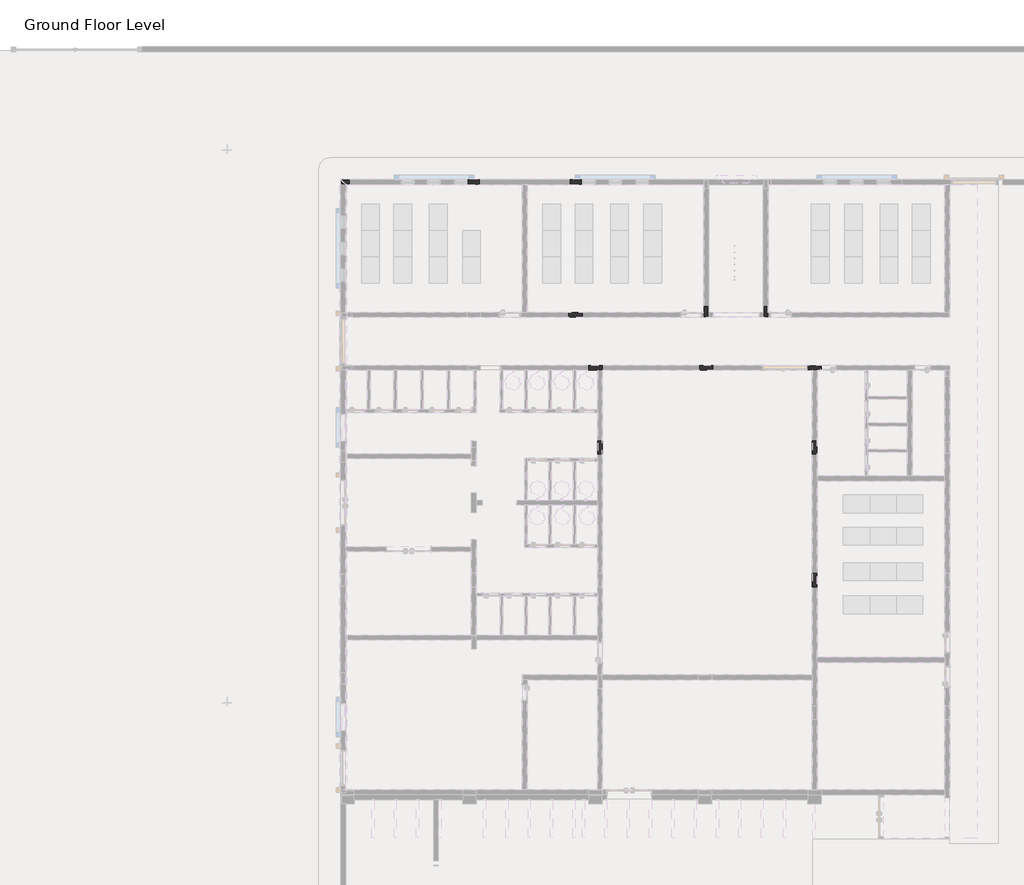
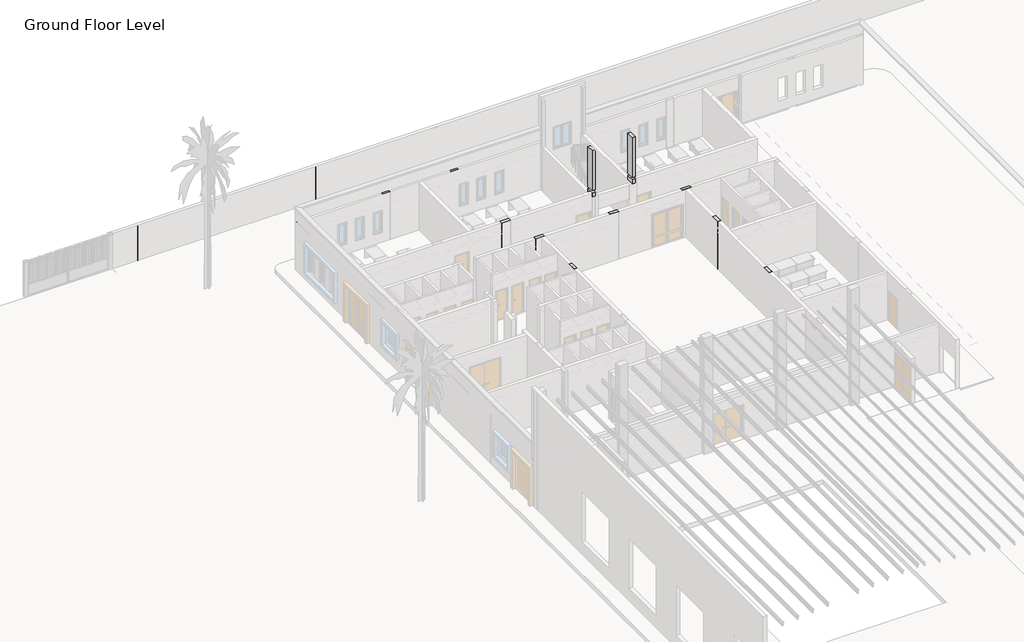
# One storey, part 19 of 23: 31 beams, 16 columns, 12 slabs.
"""IFC4 building model written with IfcOpenShell, lengths in millimetres."""

import ifcopenshell
import ifcopenshell.guid

model = None  # the IFC model being written
_history = None  # IfcOwnerHistory: only IFC2X3 demands one
_inside = {}  # id of a spatial element -> (the spatial element, [elements in it])
_under = {}  # id of a project, library or spatial element -> (it, [spatial elements below it])
_declared = {}  # id of a project -> (the project, [libraries it declares])
_typed = {}  # id of a type object -> (the type object, [elements of that type])
_made_of = {}  # id of a material, layer set ... -> (it, [elements and type objects made of it])


def new_model(schema):
    """Start an empty IFC model of exactly this schema.

    Asked for "IFC4X3", IfcOpenShell would pick the latest addendum, in which some entities
    have other attributes; the version numbers below select the first issue.
    IFC2X3 requires an IfcOwnerHistory on every rooted entity: one is made here for all.
    """
    global model, _history
    if schema == "IFC4X3":
        model = ifcopenshell.file(schema_version=(4, 3, 0, 0))
    else:
        model = ifcopenshell.file(schema=schema)
    _inside.clear()
    _under.clear()
    _declared.clear()
    _typed.clear()
    _made_of.clear()
    _history = None
    if model.schema == "IFC2X3":
        org = make("IfcOrganization", Name="unknown")
        user = make(
            "IfcPersonAndOrganization",
            ThePerson=make("IfcPerson", FamilyName="unknown"),
            TheOrganization=org,
        )
        app = make(
            "IfcApplication",
            ApplicationDeveloper=org,
            Version="unknown",
            ApplicationFullName="unknown",
            ApplicationIdentifier="unknown",
        )
        _history = make(
            "IfcOwnerHistory",
            OwningUser=user,
            OwningApplication=app,
            ChangeAction="ADDED",
            CreationDate=0,
        )
    return model


def make(cls, **values):
    """One entity of the class cls with the attributes given. An attribute that is None is left unset."""
    return model.create_entity(
        cls, **{name: value for name, value in values.items() if value is not None}
    )


def rooted(cls, **values):
    """An entity with a GlobalId (a new one), such as an element, a storey or a relation."""
    return make(cls, GlobalId=ifcopenshell.guid.new(), OwnerHistory=_history, **values)


def si_unit(unit_type, name, prefix=None):
    """IfcSIUnit, for example si_unit("LENGTHUNIT", "METRE", prefix="MILLI")."""
    return make("IfcSIUnit", UnitType=unit_type, Prefix=prefix, Name=name)


def assignment(units):
    """IfcUnitAssignment: the units of a project."""
    return None if units is None else make("IfcUnitAssignment", Units=units)


def point(xyz):
    """IfcCartesianPoint."""
    return None if xyz is None else make("IfcCartesianPoint", Coordinates=xyz)


def direction(xyz):
    """IfcDirection."""
    return None if xyz is None else make("IfcDirection", DirectionRatios=xyz)


def frame(location, z_axis=None, x_axis=None):
    """IfcAxis2Placement3D, a coordinate frame: its origin and axes. An axis left out is left unset."""
    return make(
        "IfcAxis2Placement3D",
        Location=point(location),
        Axis=direction(z_axis),
        RefDirection=direction(x_axis),
    )


def origin():
    """The frame at (0, 0, 0) with its axes left unset."""
    return frame((0.0, 0.0, 0.0))


def place(relative_to, where):
    """IfcLocalPlacement: puts the frame where relative to a parent placement (None: the world)."""
    return make(
        "IfcLocalPlacement", PlacementRelTo=relative_to, RelativePlacement=where
    )


def context(
    kind, dimensions, precision=None, world=None, true_north=None, identifier=None
):
    """IfcGeometricRepresentationContext, for example the 3D "Model" context."""
    return make(
        "IfcGeometricRepresentationContext",
        ContextIdentifier=identifier,
        ContextType=kind,
        CoordinateSpaceDimension=dimensions,
        Precision=precision,
        WorldCoordinateSystem=world,
        TrueNorth=true_north,
    )


def project(units=None, contexts=None):
    """IfcProject with its units and contexts."""
    return rooted(
        "IfcProject",
        Name="project",
        RepresentationContexts=contexts,
        UnitsInContext=assignment(units),
    )


def spatial(cls, under=None, at=None, **own):
    """A site, building, storey or space (cls), placed at a placement, below another one or the project."""
    s = rooted(cls, ObjectPlacement=at, **own)
    if under is not None:
        _under.setdefault(under.id(), (under, []))[1].append(s)
    return s


def polyline(points):
    """IfcPolyline through the points."""
    return make("IfcPolyline", Points=[point(p) for p in points])


def outline(outer, holes=None, kind="AREA"):
    """IfcArbitraryClosedProfileDef: a profile drawn as a closed curve; with holes, ...WithVoids."""
    if holes is None:
        return make("IfcArbitraryClosedProfileDef", ProfileType=kind, OuterCurve=outer)
    return make(
        "IfcArbitraryProfileDefWithVoids",
        ProfileType=kind,
        OuterCurve=outer,
        InnerCurves=holes,
    )


def extrude(swept, where, along, depth):
    """IfcExtrudedAreaSolid: the profile swept, set in the frame where, extruded along a direction by depth."""
    return make(
        "IfcExtrudedAreaSolid",
        SweptArea=swept,
        Position=where,
        ExtrudedDirection=direction(along),
        Depth=depth,
    )


def faces_of(points, faces, orient=None, outer=None):
    """IfcFace entities. A face is a list of loops; a loop is a list of indices into points, from 0.

    orient and outer hold one flag for each loop. By default every Orientation is true, the
    first loop of a face is its IfcFaceOuterBound and the others are IfcFaceBound.
    """
    made = []
    for i, loops in enumerate(faces):
        bounds = []
        for j, loop in enumerate(loops):
            is_outer = j == 0 if outer is None else outer[i][j]
            bounds.append(
                make(
                    "IfcFaceOuterBound" if is_outer else "IfcFaceBound",
                    Bound=make("IfcPolyLoop", Polygon=[points[k] for k in loop]),
                    Orientation=True if orient is None else orient[i][j],
                )
            )
        made.append(make("IfcFace", Bounds=bounds))
    return made


def faceted_brep(points, faces, orient=None, outer=None, voids=None):
    """IfcFacetedBrep: a solid bounded by flat faces; with voids (closed shells), ...WithVoids."""
    shared = [point(p) for p in points]
    hull = make("IfcClosedShell", CfsFaces=faces_of(shared, faces, orient, outer))
    if voids is None:
        return make("IfcFacetedBrep", Outer=hull)
    return make(
        "IfcFacetedBrepWithVoids",
        Outer=hull,
        Voids=[
            make(cls, CfsFaces=faces_of(shared, fs, o, b)) for cls, fs, o, b in voids
        ],
    )


def shape(context_of_items, identifier, shape_type, items):
    """IfcShapeRepresentation: the items that make up one representation, for example the "Body"."""
    return make(
        "IfcShapeRepresentation",
        ContextOfItems=context_of_items,
        RepresentationIdentifier=identifier,
        RepresentationType=shape_type,
        Items=items,
    )


def made_of(thing, what):
    """Note that an element or type object is made of a material, layer set ...; save() writes the relation."""
    if what is not None:
        _made_of.setdefault(what.id(), (what, []))[1].append(thing)
    return thing


def element(
    cls,
    number,
    at=None,
    inside=None,
    cuts=None,
    type_object=None,
    material=None,
    context=None,
    identifier="Body",
    shape_type=None,
    held_by="IfcProductDefinitionShape",
    body=None,
    shapes=None,
    **own,
):
    """One element of the class cls, such as IfcWall. Its Tag is "e" and its number.

    at: its placement. inside: the storey or other place that contains it. cuts: it is an
    opening in that element (IfcRelVoidsElement). A single representation is given by context,
    identifier, shape_type and body (its items); several are given by shapes. held_by: the class
    of the entity that holds the representations. save() writes the other relations.
    """
    e = rooted(cls, Tag="e%d" % number, ObjectPlacement=at, **own)
    if body is not None:
        shapes = [shape(context, identifier, shape_type, body)]
    if shapes is not None:
        e.Representation = make(held_by, Representations=shapes)
    if inside is not None:
        _inside.setdefault(inside.id(), (inside, []))[1].append(e)
    if cuts is not None:
        rooted(
            "IfcRelVoidsElement", RelatingBuildingElement=cuts, RelatedOpeningElement=e
        )
    if type_object is not None:
        _typed.setdefault(type_object.id(), (type_object, []))[1].append(e)
    return made_of(e, material)


def aggregate(whole, parts):
    """IfcRelAggregates: a whole, such as a stair, and the parts it consists of."""
    return rooted("IfcRelAggregates", RelatingObject=whole, RelatedObjects=parts)


def save(model, path):
    """Write the relations noted so far, then the file.

    IfcRelAggregates (storeys below a building ...), IfcRelContainedInSpatialStructure (elements
    in a storey), IfcRelDefinesByType, IfcRelAssociatesMaterial and IfcRelDeclares: one each for
    every whole, place, type object, material and project.
    """
    for whole, parts in _under.values():
        aggregate(whole, parts)
    for where, things in _inside.values():
        rooted(
            "IfcRelContainedInSpatialStructure",
            RelatedElements=things,
            RelatingStructure=where,
        )
    for kind, things in _typed.values():
        rooted("IfcRelDefinesByType", RelatedObjects=things, RelatingType=kind)
    for what, things in _made_of.values():
        rooted("IfcRelAssociatesMaterial", RelatedObjects=things, RelatingMaterial=what)
    for by, libraries in _declared.values():
        rooted("IfcRelDeclares", RelatingContext=by, RelatedDefinitions=libraries)
    model.write(path)


model = new_model("IFC4")

# Units and contexts
model_context = context("Model", 3, world=origin())
ifc_project = project(units=[si_unit("LENGTHUNIT", "METRE", prefix="MILLI")], contexts=[model_context])

# Site, building, storey
site = spatial("IfcSite", under=ifc_project)
building = spatial("IfcBuilding", under=site)
storey = spatial("IfcBuildingStorey", under=building, Name="Ground Floor Level", Elevation=900.0)

# Beams
placement = place(None, origin())
element("IfcBeam", 1, ObjectType="Concrete - Rectangular Beam : GB1", at=placement, inside=storey, context=model_context, shape_type="SweptSolid", body=[
    extrude(outline(polyline([(-14847.2327605, 13045.2153534), (-14647.2327605, 13045.2153534), (-14647.2327605, 11345.2153534), (-14847.2327605, 11345.2153534), (-14847.2327605, 13045.2153534)])), frame((0.0, 0.0, 500.0), z_axis=(0.0, 0.0, 1.0), x_axis=(1.0, 0.0, 0.0)), (0.0, 0.0, 1.0), 100.0),
])
element("IfcBeam", 2, ObjectType="Concrete - Rectangular Beam : GB1", at=placement, inside=storey, context=model_context, shape_type="SweptSolid", body=[
    extrude(outline(polyline([(-13747.2327605, 13045.2153534), (-13547.2327605, 13045.2153534), (-13547.2327605, 11345.2153534), (-13747.2327605, 11345.2153534), (-13747.2327605, 13045.2153534)])), frame((0.0, 0.0, 500.0), z_axis=(0.0, 0.0, 1.0), x_axis=(1.0, 0.0, 0.0)), (0.0, 0.0, 1.0), 100.0),
])
element("IfcBeam", 3, ObjectType="Concrete - Rectangular Beam : GB1", at=placement, inside=storey, context=model_context, shape_type="SweptSolid", body=[
    extrude(outline(polyline([(-12647.2327605, 13045.2153534), (-12447.2327605, 13045.2153534), (-12447.2327605, 11345.2153534), (-12647.2327605, 11345.2153534), (-12647.2327605, 13045.2153534)])), frame((0.0, 0.0, 500.0), z_axis=(0.0, 0.0, 1.0), x_axis=(1.0, 0.0, 0.0)), (0.0, 0.0, 1.0), 100.0),
])
element("IfcBeam", 4, ObjectType="Concrete - Rectangular Beam : GB1", at=placement, inside=storey, context=model_context, shape_type="SweptSolid", body=[
    extrude(outline(polyline([(-11547.2327605, 13045.2153534), (-11347.2327605, 13045.2153534), (-11347.2327605, 11345.2153534), (-11547.2327605, 11345.2153534), (-11547.2327605, 13045.2153534)])), frame((0.0, 0.0, 500.0), z_axis=(0.0, 0.0, 1.0), x_axis=(1.0, 0.0, 0.0)), (0.0, 0.0, 1.0), 100.0),
])
element("IfcBeam", 5, ObjectType="Concrete - Rectangular Beam : GB1", at=placement, inside=storey, context=model_context, shape_type="SweptSolid", body=[
    extrude(outline(polyline([(-13547.2327605, 8945.2153534), (-13547.2327605, 7145.2153534), (-13747.2327605, 7145.2153534), (-13747.2327605, 8945.2153534), (-13547.2327605, 8945.2153534)])), frame((0.0, 0.0, 500.0), z_axis=(0.0, 0.0, 1.0), x_axis=(1.0, 0.0, 0.0)), (0.0, 0.0, 1.0), 100.0),
])
element("IfcBeam", 6, ObjectType="Concrete - Rectangular Beam : GB1", at=placement, inside=storey, context=model_context, shape_type="SweptSolid", body=[
    extrude(outline(polyline([(-12447.2327605, 8945.2153534), (-12447.2327605, 7145.2153534), (-12647.2327605, 7145.2153534), (-12647.2327605, 8945.2153534), (-12447.2327605, 8945.2153534)])), frame((0.0, 0.0, 500.0), z_axis=(0.0, 0.0, 1.0), x_axis=(1.0, 0.0, 0.0)), (0.0, 0.0, 1.0), 100.0),
])
element("IfcBeam", 7, ObjectType="Concrete - Rectangular Beam : GB1", at=placement, inside=storey, context=model_context, shape_type="SweptSolid", body=[
    extrude(outline(polyline([(-11347.2327605, 5245.2153534), (-11547.2327605, 5245.2153534), (-11547.2327605, 6945.2153534), (-11347.2327605, 6945.2153534), (-11347.2327605, 5245.2153534)])), frame((0.0, 0.0, 500.0), z_axis=(0.0, 0.0, 1.0), x_axis=(1.0, 0.0, 0.0)), (0.0, 0.0, 1.0), 100.0),
])
element("IfcBeam", 8, ObjectType="Concrete - Rectangular Beam : GB1", at=placement, inside=storey, context=model_context, shape_type="SweptSolid", body=[
    extrude(outline(polyline([(-11347.2327605, 8945.2153534), (-11347.2327605, 7145.2153534), (-11547.2327605, 7145.2153534), (-11547.2327605, 8945.2153534), (-11347.2327605, 8945.2153534)])), frame((0.0, 0.0, 500.0), z_axis=(0.0, 0.0, 1.0), x_axis=(1.0, 0.0, 0.0)), (0.0, 0.0, 1.0), 100.0),
])
element("IfcBeam", 9, ObjectType="Concrete - Rectangular Beam : GB2", at=placement, inside=storey, context=model_context, shape_type="SweptSolid", body=[
    extrude(outline(polyline([(-5447.2327605, 15445.2153534), (-5447.2327605, 15645.2153534), (-2947.2327605, 15645.2153534), (-2947.2327605, 15445.2153534), (-5447.2327605, 15445.2153534)])), frame((0.0, 0.0, 300.0), z_axis=(0.0, 0.0, 1.0), x_axis=(1.0, 0.0, 0.0)), (0.0, 0.0, 1.0), 300.0),
])
element("IfcBeam", 10, ObjectType="Concrete - Rectangular Beam : GB2", at=placement, inside=storey, context=model_context, shape_type="SweptSolid", body=[
    extrude(outline(polyline([(-947.2327605, 13245.2153534), (-947.2327605, 13045.2153534), (-5247.2327605, 13045.2153534), (-5247.2327605, 13245.2153534), (-947.2327605, 13245.2153534)])), frame((0.0, 0.0, 300.0), z_axis=(0.0, 0.0, 1.0), x_axis=(1.0, 0.0, 0.0)), (0.0, 0.0, 1.0), 300.0),
])
element("IfcBeam", 11, ObjectType="Concrete - Rectangular Beam : GB2", at=placement, inside=storey, context=model_context, shape_type="SweptSolid", body=[
    extrude(outline(polyline([(-10197.2327605, 13245.2153534), (-5847.2327605, 13245.2153534), (-5847.2327605, 13045.2153534), (-10197.2327605, 13045.2153534), (-10197.2327605, 13245.2153534)])), frame((0.0, 0.0, 300.0), z_axis=(0.0, 0.0, 1.0), x_axis=(1.0, 0.0, 0.0)), (0.0, 0.0, 1.0), 300.0),
])
element("IfcBeam", 12, ObjectType="Concrete - Rectangular Beam : GB2", at=placement, inside=storey, context=model_context, shape_type="SweptSolid", body=[
    extrude(outline(polyline([(-747.2327605, 12995.2153534), (-547.2327605, 12995.2153534), (-547.2327605, 9845.2153534), (-747.2327605, 9845.2153534), (-747.2327605, 12995.2153534)])), frame((0.0, 0.0, 300.0), z_axis=(0.0, 0.0, 1.0), x_axis=(1.0, 0.0, 0.0)), (0.0, 0.0, 1.0), 300.0),
])
element("IfcBeam", 13, ObjectType="Concrete - Rectangular Beam : GB3", at=placement, inside=storey, context=model_context, shape_type="SweptSolid", body=[
    extrude(outline(polyline([(-797.2327605, 9705.4349096), (-797.2327605, 9457.9124639), (-5716.9624376, 13045.2153534), (-5377.5030835, 13045.2153534), (-797.2327605, 9705.4349096)])), frame((0.0, 0.0, 300.0), z_axis=(0.0, 0.0, 1.0), x_axis=(1.0, 0.0, 0.0)), (0.0, 0.0, 1.0), 300.0),
])
element("IfcBeam", 14, ObjectType="Concrete - Rectangular Beam : GB4", at=placement, inside=storey, context=model_context, shape_type="SweptSolid", body=[
    extrude(outline(polyline([(-21647.2327605, 21445.2153534), (-21647.2327605, 21645.2153534), (-16297.2327605, 21645.2153534), (-16297.2327605, 21445.2153534), (-21647.2327605, 21445.2153534)])), frame((0.0, 0.0, 300.0), z_axis=(0.0, 0.0, 1.0), x_axis=(1.0, 0.0, 0.0)), (0.0, 0.0, 1.0), 300.0),
])
element("IfcBeam", 15, ObjectType="Concrete - Rectangular Beam : GB4", at=placement, inside=storey, context=model_context, shape_type="SweptSolid", body=[
    extrude(outline(polyline([(-11197.2327605, 21445.2153534), (-11197.2327605, 21645.2153534), (-5647.2327605, 21645.2153534), (-5647.2327605, 21445.2153534), (-11197.2327605, 21445.2153534)])), frame((0.0, 0.0, 300.0), z_axis=(0.0, 0.0, 1.0), x_axis=(1.0, 0.0, 0.0)), (0.0, 0.0, 1.0), 300.0),
])
element("IfcBeam", 16, ObjectType="Concrete - Rectangular Beam : GB4", at=placement, inside=storey, context=model_context, shape_type="SweptSolid", body=[
    extrude(outline(polyline([(-11697.2327605, 15645.2153534), (-11697.2327605, 21445.2153534), (-11497.2327605, 21445.2153534), (-11497.2327605, 15645.2153534), (-11697.2327605, 15645.2153534)])), frame((0.0, 0.0, 300.0), z_axis=(0.0, 0.0, 1.0), x_axis=(1.0, 0.0, 0.0)), (0.0, 0.0, 1.0), 300.0),
])
element("IfcBeam", 17, ObjectType="Concrete - Rectangular Beam : GB4", at=placement, inside=storey, context=model_context, shape_type="SweptSolid", body=[
    extrude(outline(polyline([(-13847.2327605, 21445.2153534), (-13647.2327605, 21445.2153534), (-13647.2327605, 15645.2153534), (-13847.2327605, 15645.2153534), (-13847.2327605, 21445.2153534)])), frame((0.0, 0.0, 300.0), z_axis=(0.0, 0.0, 1.0), x_axis=(1.0, 0.0, 0.0)), (0.0, 0.0, 1.0), 300.0),
])
element("IfcBeam", 18, ObjectType="Concrete - Rectangular Beam : GB4", at=placement, inside=storey, context=model_context, shape_type="SweptSolid", body=[
    extrude(outline(polyline([(-15997.2327605, 15645.2153534), (-15997.2327605, 21445.2153534), (-15797.2327605, 21445.2153534), (-15797.2327605, 15645.2153534), (-15997.2327605, 15645.2153534)])), frame((0.0, 0.0, 300.0), z_axis=(0.0, 0.0, 1.0), x_axis=(1.0, 0.0, 0.0)), (0.0, 0.0, 1.0), 300.0),
])
element("IfcBeam", 19, ObjectType="Concrete - Rectangular Beam : GB4", at=placement, inside=storey, context=model_context, shape_type="SweptSolid", body=[
    extrude(outline(polyline([(-21847.2327605, 15645.2153534), (-22047.2327605, 15645.2153534), (-22047.2327605, 21445.2153534), (-21847.2327605, 21445.2153534), (-21847.2327605, 15645.2153534)])), frame((0.0, 0.0, 300.0), z_axis=(0.0, 0.0, 1.0), x_axis=(1.0, 0.0, 0.0)), (0.0, 0.0, 1.0), 300.0),
])
element("IfcBeam", 20, ObjectType="Concrete - Rectangular Beam : GB4", at=placement, inside=storey, context=model_context, shape_type="SweptSolid", body=[
    extrude(outline(polyline([(-11147.2327605, 15445.2153534), (-11147.2327605, 15645.2153534), (-5647.2327605, 15645.2153534), (-5647.2327605, 15445.2153534), (-11147.2327605, 15445.2153534)])), frame((0.0, 0.0, 300.0), z_axis=(0.0, 0.0, 1.0), x_axis=(1.0, 0.0, 0.0)), (0.0, 0.0, 1.0), 300.0),
])
element("IfcBeam", 21, ObjectType="Concrete - Rectangular Beam : GB5", at=placement, inside=storey, context=model_context, shape_type="Brep", body=[
    faceted_brep([(-15797.2327605, 21445.2153534, 300.0), (-13847.2327605, 21445.2153534, 300.0), (-13647.2327605, 21445.2153534, 300.0), (-11697.2327605, 21445.2153534, 300.0), (-11697.2327605, 21445.2153534, 600.0), (-13647.2327605, 21445.2153534, 600.0), (-13847.2327605, 21445.2153534, 600.0), (-15797.2327605, 21445.2153534, 600.0), (-11697.2327605, 21645.2153534, 300.0), (-15797.2327605, 21645.2153534, 300.0), (-15797.2327605, 21645.2153534, 600.0), (-11697.2327605, 21645.2153534, 600.0)], [[[0, 1, 2, 3, 4, 5, 6, 7]], [[8, 3, 2, 1, 0, 9]], [[8, 9, 10, 11]], [[9, 0, 7, 10]], [[3, 8, 11, 4]], [[7, 6, 5, 4, 11, 10]]]),
])
element("IfcBeam", 22, ObjectType="Concrete - Rectangular Beam : GB5", at=placement, inside=storey, context=model_context, shape_type="SweptSolid", body=[
    extrude(outline(polyline([(-2947.2327605, 21245.2153534), (-2747.2327605, 21245.2153534), (-2747.2327605, 15945.2153534), (-2947.2327605, 15945.2153534), (-2947.2327605, 21245.2153534)])), frame((0.0, 0.0, 300.0), z_axis=(0.0, 0.0, 1.0), x_axis=(1.0, 0.0, 0.0)), (0.0, 0.0, 1.0), 300.0),
])
element("IfcBeam", 23, ObjectType="Concrete - Rectangular Beam : GB5", at=placement, inside=storey, context=model_context, shape_type="SweptSolid", body=[
    extrude(outline(polyline([(-5647.2327605, 21245.2153534), (-5447.2327605, 21245.2153534), (-5447.2327605, 15945.2153534), (-5647.2327605, 15945.2153534), (-5647.2327605, 21245.2153534)])), frame((0.0, 0.0, 300.0), z_axis=(0.0, 0.0, 1.0), x_axis=(1.0, 0.0, 0.0)), (0.0, 0.0, 1.0), 300.0),
])
element("IfcBeam", 24, ObjectType="Concrete - Rectangular Beam : GB5", at=placement, inside=storey, context=model_context, shape_type="Brep", body=[
    faceted_brep([(-15747.2327605, 15445.2153534, 300.0), (-11747.2327605, 15445.2153534, 300.0), (-11747.2327605, 15445.2153534, 600.0), (-15747.2327605, 15445.2153534, 600.0), (-15747.2327605, 15645.2153534, 300.0), (-13847.2327605, 15645.2153534, 300.0), (-13647.2327605, 15645.2153534, 300.0), (-11747.2327605, 15645.2153534, 300.0), (-15747.2327605, 15645.2153534, 600.0), (-13847.2327605, 15645.2153534, 600.0), (-13647.2327605, 15645.2153534, 600.0), (-11747.2327605, 15645.2153534, 600.0)], [[[0, 1, 2, 3]], [[0, 4, 5, 6, 7, 1]], [[7, 6, 5, 4, 8, 9, 10, 11]], [[4, 0, 3, 8]], [[1, 7, 11, 2]], [[3, 2, 11, 10, 9, 8]]]),
])
element("IfcBeam", 25, ObjectType="Concrete - Rectangular Beam : GB5", at=placement, inside=storey, context=model_context, shape_type="Brep", body=[
    faceted_brep([(-10847.2327605, 13245.2153534, 300.0), (-15747.2327605, 13245.2153534, 300.0), (-15747.2327605, 13245.2153534, 600.0), (-10847.2327605, 13245.2153534, 600.0), (-15747.2327605, 13045.2153534, 300.0), (-10847.2327605, 13045.2153534, 300.0), (-10847.2327605, 13045.2153534, 600.0), (-11347.2327605, 13045.2153534, 600.0), (-11547.2327605, 13045.2153534, 600.0), (-12447.2327605, 13045.2153534, 600.0), (-12647.2327605, 13045.2153534, 600.0), (-13547.2327605, 13045.2153534, 600.0), (-13747.2327605, 13045.2153534, 600.0), (-14647.2327605, 13045.2153534, 600.0), (-14847.2327605, 13045.2153534, 600.0), (-15747.2327605, 13045.2153534, 600.0)], [[[0, 1, 2, 3]], [[4, 1, 0, 5]], [[4, 5, 6, 7, 8, 9, 10, 11, 12, 13, 14, 15]], [[5, 0, 3, 6]], [[1, 4, 15, 2]], [[3, 2, 15, 14, 13, 12, 11, 10, 9, 8, 7, 6]]]),
])
element("IfcBeam", 26, ObjectType="Concrete - Rectangular Beam : GB5", at=placement, inside=storey, context=model_context, shape_type="Brep", body=[
    faceted_brep([(-15947.2327605, 11145.2153534, 300.0), (-10497.2327605, 11145.2153534, 300.0), (-10497.2327605, 11145.2153534, 600.0), (-15947.2327605, 11145.2153534, 600.0), (-10497.2327605, 11345.2153534, 300.0), (-15947.2327605, 11345.2153534, 300.0), (-15947.2327605, 11345.2153534, 600.0), (-14847.2327605, 11345.2153534, 600.0), (-14647.2327605, 11345.2153534, 600.0), (-13747.2327605, 11345.2153534, 600.0), (-13547.2327605, 11345.2153534, 600.0), (-12647.2327605, 11345.2153534, 600.0), (-12447.2327605, 11345.2153534, 600.0), (-11547.2327605, 11345.2153534, 600.0), (-11347.2327605, 11345.2153534, 600.0), (-10497.2327605, 11345.2153534, 600.0)], [[[0, 1, 2, 3]], [[4, 1, 0, 5]], [[4, 5, 6, 7, 8, 9, 10, 11, 12, 13, 14, 15]], [[5, 0, 3, 6]], [[1, 4, 15, 2]], [[3, 2, 15, 14, 13, 12, 11, 10, 9, 8, 7, 6]]]),
])
element("IfcBeam", 27, ObjectType="Concrete - Rectangular Beam : GB5", at=placement, inside=storey, context=model_context, shape_type="Brep", body=[
    faceted_brep([(-15897.2327605, 8945.2153534, 300.0), (-10497.2327605, 8945.2153534, 300.0), (-10497.2327605, 8945.2153534, 600.0), (-11347.2327605, 8945.2153534, 600.0), (-11547.2327605, 8945.2153534, 600.0), (-12447.2327605, 8945.2153534, 600.0), (-12647.2327605, 8945.2153534, 600.0), (-13547.2327605, 8945.2153534, 600.0), (-13747.2327605, 8945.2153534, 600.0), (-15897.2327605, 8945.2153534, 600.0), (-10497.2327605, 9145.2153534, 300.0), (-15897.2327605, 9145.2153534, 300.0), (-15897.2327605, 9145.2153534, 600.0), (-10497.2327605, 9145.2153534, 600.0)], [[[0, 1, 2, 3, 4, 5, 6, 7, 8, 9]], [[10, 1, 0, 11]], [[10, 11, 12, 13]], [[1, 10, 13, 2]], [[11, 0, 9, 12]], [[9, 8, 7, 6, 5, 4, 3, 2, 13, 12]]]),
])
element("IfcBeam", 28, ObjectType="Concrete - Rectangular Beam : GB5", at=placement, inside=storey, context=model_context, shape_type="Brep", body=[
    faceted_brep([(-547.2327605, -2154.7846466, 300.0), (-547.2327605, -154.7846466, 300.0), (-547.2327605, 45.2153534, 300.0), (-547.2327605, 3245.2153534, 300.0), (-547.2327605, 3245.2153534, 600.0), (-547.2327605, 45.2153534, 600.0), (-547.2327605, -154.7846466, 600.0), (-547.2327605, -2154.7846466, 600.0), (-747.2327605, 3245.2153534, 300.0), (-747.2327605, -2154.7846466, 300.0), (-747.2327605, -954.7846466, 300.0), (-747.2327605, -754.7846466, 300.0), (-747.2327605, -2154.7846466, 600.0), (-747.2327605, -954.7846466, 600.0), (-747.2327605, -754.7846466, 600.0), (-747.2327605, 3245.2153534, 600.0)], [[[0, 1, 2, 3, 4, 5, 6, 7]], [[8, 3, 2, 1, 0, 9, 10, 11]], [[8, 11, 10, 9, 12, 13, 14, 15]], [[3, 8, 15, 4]], [[9, 0, 7, 12]], [[7, 6, 5, 4, 15, 14, 13, 12]]]),
])
element("IfcBeam", 29, ObjectType="Concrete - Rectangular Beam : GB6", at=placement, inside=storey, context=model_context, shape_type="Brep", body=[
    faceted_brep([(-10497.2327605, 13045.2153534, 300.0), (-10497.2327605, 11345.2153534, 300.0), (-10497.2327605, 11145.2153534, 300.0), (-10497.2327605, 9545.2153534, 300.0), (-10497.2327605, 9545.2153534, 600.0), (-10497.2327605, 11145.2153534, 600.0), (-10497.2327605, 11345.2153534, 600.0), (-10497.2327605, 13045.2153534, 600.0), (-10247.2327605, 9545.2153534, 300.0), (-10247.2327605, 9845.2153534, 300.0), (-10447.2327605, 9845.2153534, 300.0), (-10447.2327605, 9545.2153534, 300.0), (-10247.2327605, 13045.2153534, 300.0), (-10247.2327605, 13245.2153534, 300.0), (-10197.2327605, 13245.2153534, 300.0), (-10197.2327605, 13045.2153534, 300.0), (-10197.2327605, 9545.2153534, 300.0), (-10197.2327605, 13245.2153534, 600.0), (-10197.2327605, 13045.2153534, 600.0), (-10197.2327605, 9545.2153534, 600.0), (-10247.2327605, 9545.2153534, 600.0), (-10247.2327605, 9845.2153534, 600.0), (-10447.2327605, 9845.2153534, 600.0), (-10447.2327605, 9545.2153534, 600.0), (-10247.2327605, 13245.2153534, 600.0), (-10247.2327605, 13045.2153534, 600.0)], [[[0, 1, 2, 3, 4, 5, 6, 7]], [[8, 9, 10, 11, 3, 2, 1, 0, 12, 13, 14, 15, 16]], [[16, 15, 14, 17, 18, 19]], [[9, 8, 20, 21]], [[11, 10, 22, 23]], [[10, 9, 21, 22]], [[14, 13, 24, 17]], [[8, 16, 19, 20]], [[3, 11, 23, 4]], [[12, 0, 7, 25]], [[13, 12, 25, 24]], [[7, 6, 5, 4, 23, 22, 21, 20, 19, 18, 17, 24, 25]]]),
])
element("IfcBeam", 30, ObjectType="Concrete - Rectangular Beam : GB6", at=placement, inside=storey, context=model_context, shape_type="Brep", body=[
    faceted_brep([(-10497.2327605, 9545.2153534, 300.0), (-10497.2327605, 9145.2153534, 300.0), (-10497.2327605, 8945.2153534, 300.0), (-10497.2327605, 7145.2153534, 300.0), (-10497.2327605, 6945.2153534, 300.0), (-10497.2327605, 5245.2153534, 300.0), (-10497.2327605, 5045.2153534, 300.0), (-10497.2327605, 2945.2153534, 300.0), (-10497.2327605, 2745.2153534, 300.0), (-10497.2327605, 1095.2153534, 300.0), (-10497.2327605, 795.2153534, 300.0), (-10497.2327605, -754.7846466, 300.0), (-10497.2327605, -954.7846466, 300.0), (-10497.2327605, -954.7846466, 600.0), (-10497.2327605, -754.7846466, 600.0), (-10497.2327605, 795.2153534, 600.0), (-10497.2327605, 1095.2153534, 600.0), (-10497.2327605, 2745.2153534, 600.0), (-10497.2327605, 2945.2153534, 600.0), (-10497.2327605, 5045.2153534, 600.0), (-10497.2327605, 5245.2153534, 600.0), (-10497.2327605, 6945.2153534, 600.0), (-10497.2327605, 7145.2153534, 600.0), (-10497.2327605, 8945.2153534, 600.0), (-10497.2327605, 9145.2153534, 600.0), (-10497.2327605, 9545.2153534, 600.0), (-10447.2327605, 9545.2153534, 300.0), (-10447.2327605, 9245.2153534, 300.0), (-10247.2327605, 9245.2153534, 300.0), (-10247.2327605, 9545.2153534, 300.0), (-10197.2327605, 9545.2153534, 300.0), (-10197.2327605, -754.7846466, 300.0), (-10197.2327605, -954.7846466, 300.0), (-10247.2327605, -954.7846466, 300.0), (-10247.2327605, -754.7846466, 300.0), (-10447.2327605, -754.7846466, 300.0), (-10447.2327605, -954.7846466, 300.0), (-10247.2327605, 3245.2153534, 300.0), (-10247.2327605, 3845.2153534, 300.0), (-10447.2327605, 3845.2153534, 300.0), (-10447.2327605, 3245.2153534, 300.0), (-10197.2327605, 9545.2153534, 600.0), (-10197.2327605, -754.7846466, 600.0), (-10197.2327605, -954.7846466, 600.0), (-10247.2327605, 9245.2153534, 600.0), (-10247.2327605, 9545.2153534, 600.0), (-10447.2327605, 9245.2153534, 600.0), (-10447.2327605, 9545.2153534, 600.0), (-10447.2327605, -754.7846466, 600.0), (-10447.2327605, -954.7846466, 600.0), (-10247.2327605, -754.7846466, 600.0), (-10247.2327605, -954.7846466, 600.0), (-10247.2327605, 3245.2153534, 600.0), (-10247.2327605, 3845.2153534, 600.0), (-10447.2327605, 3245.2153534, 600.0), (-10447.2327605, 3845.2153534, 600.0)], [[[0, 1, 2, 3, 4, 5, 6, 7, 8, 9, 10, 11, 12, 13, 14, 15, 16, 17, 18, 19, 20, 21, 22, 23, 24, 25]], [[12, 11, 10, 9, 8, 7, 6, 5, 4, 3, 2, 1, 0, 26, 27, 28, 29, 30, 31, 32, 33, 34, 35, 36], [37, 38, 39, 40]], [[32, 31, 30, 41, 42, 43]], [[29, 28, 44, 45]], [[28, 27, 46, 44]], [[27, 26, 47, 46]], [[36, 35, 48, 49]], [[35, 34, 50, 48]], [[34, 33, 51, 50]], [[30, 29, 45, 41]], [[12, 36, 49, 13]], [[26, 0, 25, 47]], [[33, 32, 43, 51]], [[38, 37, 52, 53]], [[37, 40, 54, 52]], [[40, 39, 55, 54]], [[39, 38, 53, 55]], [[25, 24, 23, 22, 21, 20, 19, 18, 17, 16, 15, 14, 13, 49, 48, 50, 51, 43, 42, 41, 45, 44, 46, 47], [53, 52, 54, 55]]]),
])
element("IfcBeam", 31, ObjectType="Concrete - Rectangular Beam : GB6", at=placement, inside=storey, context=model_context, shape_type="Brep", body=[
    faceted_brep([(-497.2327605, 3445.2153534, 300.0), (-497.2327605, 3645.2153534, 300.0), (-497.2327605, 7995.2153534, 300.0), (-497.2327605, 8295.2153534, 300.0), (-497.2327605, 9486.6849096, 300.0), (-497.2327605, 9486.6849096, 600.0), (-497.2327605, 8295.2153534, 600.0), (-497.2327605, 7995.2153534, 600.0), (-497.2327605, 3645.2153534, 600.0), (-497.2327605, 3445.2153534, 600.0), (-747.2327605, 9668.9765762, 300.0), (-747.2327605, 9245.2153534, 300.0), (-547.2327605, 9245.2153534, 300.0), (-547.2327605, 9523.1432429, 300.0), (-547.2327605, 3445.2153534, 300.0), (-547.2327605, 3845.2153534, 300.0), (-747.2327605, 3845.2153534, 300.0), (-747.2327605, 3445.2153534, 300.0), (-797.2327605, 3445.2153534, 300.0), (-797.2327605, 9457.9124639, 300.0), (-797.2327605, 9705.4349096, 300.0), (-797.2327605, 3445.2153534, 600.0), (-797.2327605, 9457.9124639, 600.0), (-797.2327605, 9705.4349096, 600.0), (-747.2327605, 9668.9765762, 600.0), (-747.2327605, 9245.2153534, 600.0), (-547.2327605, 9245.2153534, 600.0), (-547.2327605, 9523.1432429, 600.0), (-747.2327605, 3845.2153534, 600.0), (-747.2327605, 3445.2153534, 600.0), (-547.2327605, 3845.2153534, 600.0), (-547.2327605, 3445.2153534, 600.0)], [[[0, 1, 2, 3, 4, 5, 6, 7, 8, 9]], [[10, 11, 12, 13, 4, 3, 2, 1, 0, 14, 15, 16, 17, 18, 19, 20]], [[20, 19, 18, 21, 22, 23]], [[11, 10, 24, 25]], [[13, 12, 26, 27]], [[12, 11, 25, 26]], [[17, 16, 28, 29]], [[16, 15, 30, 28]], [[15, 14, 31, 30]], [[10, 20, 23, 24]], [[18, 17, 29, 21]], [[4, 13, 27, 5]], [[14, 0, 9, 31]], [[9, 8, 7, 6, 5, 27, 26, 25, 24, 23, 22, 21, 29, 28, 30, 31]]]),
])

# Columns
element("IfcColumn", 32, ObjectType="Concrete Rectangular : C", at=placement, inside=storey, context=model_context, shape_type="SweptSolid", body=[
    extrude(outline(polyline([(-29347.3444985, 27650.6767253), (-29147.3444985, 27650.6767253), (-29147.3444985, 27450.6767253), (-29347.3444985, 27450.6767253), (-29347.3444985, 27650.6767253)])), frame((0.0, 0.0, 600.0), z_axis=(0.0, 0.0, 1.0), x_axis=(1.0, 0.0, 0.0)), (0.0, 0.0, 1.0), 2450.0),
])
element("IfcColumn", 33, ObjectType="Concrete Rectangular : C", at=placement, inside=storey, context=model_context, shape_type="SweptSolid", body=[
    extrude(outline(polyline([(-25347.3444985, 27650.6767253), (-25147.3444985, 27650.6767253), (-25147.3444985, 27450.6767253), (-25347.3444985, 27450.6767253), (-25347.3444985, 27650.6767253)])), frame((0.0, 0.0, 600.0), z_axis=(0.0, 0.0, 1.0), x_axis=(1.0, 0.0, 0.0)), (0.0, 0.0, 1.0), 2450.0),
])
element("IfcColumn", 34, ObjectType="Concrete Rectangular : C", at=placement, inside=storey, context=model_context, shape_type="SweptSolid", body=[
    extrude(outline(polyline([(-21347.3444985, 27650.6767253), (-21147.3444985, 27650.6767253), (-21147.3444985, 27450.6767253), (-21347.3444985, 27450.6767253), (-21347.3444985, 27650.6767253)])), frame((0.0, 0.0, 600.0), z_axis=(0.0, 0.0, 1.0), x_axis=(1.0, 0.0, 0.0)), (0.0, 0.0, 1.0), 2450.0),
])
element("IfcColumn", 35, ObjectType="Concrete Rectangular : C", at=placement, inside=storey, context=model_context, shape_type="SweptSolid", body=[
    extrude(outline(polyline([(-17347.3444985, 27650.6767253), (-17147.3444985, 27650.6767253), (-17147.3444985, 27450.6767253), (-17347.3444985, 27450.6767253), (-17347.3444985, 27650.6767253)])), frame((0.0, 0.0, 600.0), z_axis=(0.0, 0.0, 1.0), x_axis=(1.0, 0.0, 0.0)), (0.0, 0.0, 1.0), 2450.0),
])
element("IfcColumn", 36, ObjectType="Concrete Rectangular : C1", at=placement, inside=storey, context=model_context, shape_type="Brep", body=[
    faceted_brep([(-22047.2327605, 21645.2153534, -300.0), (-21647.2327605, 21645.2153534, -300.0), (-21647.2327605, 21445.2153534, -300.0), (-22047.2327605, 21445.2153534, -300.0), (-22047.2327605, 21645.2153534, 4400.0), (-21647.2327605, 21645.2153534, 4400.0), (-21647.2327605, 21645.2153534, 900.0), (-22047.2327605, 21645.2153534, 900.0), (-21647.2327605, 21445.2153534, 4400.0), (-21647.2327605, 21445.2153534, 1000.0), (-21647.2327605, 21445.2153534, 900.0), (-21837.2327605, 21445.2153534, 4400.0), (-22047.2327605, 21445.2153534, 4400.0), (-22047.2327605, 21445.2153534, 900.0)], [[[0, 1, 2, 3]], [[4, 5, 6, 1, 0, 7]], [[5, 8, 9, 10, 2, 1, 6]], [[8, 11, 12, 13, 3, 2, 10, 9]], [[12, 4, 7, 0, 3, 13]], [[4, 12, 11, 8, 5]]]),
])
element("IfcColumn", 37, ObjectType="Concrete Rectangular : C2", at=placement, inside=storey, context=model_context, shape_type="Brep", body=[
    faceted_brep([(-16297.2327605, 21645.2153534, -300.0), (-15797.2327605, 21645.2153534, -300.0), (-15797.2327605, 21445.2153534, -300.0), (-16297.2327605, 21445.2153534, -300.0), (-16297.2327605, 21645.2153534, 4400.0), (-15797.2327605, 21645.2153534, 4400.0), (-15797.2327605, 21645.2153534, 900.0), (-16297.2327605, 21645.2153534, 900.0), (-15797.2327605, 21445.2153534, 4400.0), (-15797.2327605, 21445.2153534, 1000.0), (-15797.2327605, 21445.2153534, 900.0), (-16297.2327605, 21445.2153534, 4400.0), (-16297.2327605, 21445.2153534, 1000.0), (-16297.2327605, 21445.2153534, 900.0)], [[[0, 1, 2, 3]], [[4, 5, 6, 1, 0, 7]], [[5, 8, 9, 10, 2, 1, 6]], [[8, 11, 12, 13, 3, 2, 10, 9]], [[11, 4, 7, 0, 3, 13, 12]], [[4, 11, 8, 5]]]),
])
element("IfcColumn", 38, ObjectType="Concrete Rectangular : C2", at=placement, inside=storey, context=model_context, shape_type="Brep", body=[
    faceted_brep([(-11697.2327605, 21645.2153534, -300.0), (-11197.2327605, 21645.2153534, -300.0), (-11197.2327605, 21445.2153534, -300.0), (-11697.2327605, 21445.2153534, -300.0), (-11697.2327605, 21645.2153534, 4400.0), (-11197.2327605, 21645.2153534, 4400.0), (-11197.2327605, 21645.2153534, 900.0), (-11697.2327605, 21645.2153534, 900.0), (-11197.2327605, 21445.2153534, 4400.0), (-11197.2327605, 21445.2153534, 1000.0), (-11197.2327605, 21445.2153534, 900.0), (-11697.2327605, 21445.2153534, 4400.0), (-11697.2327605, 21445.2153534, 1000.0), (-11697.2327605, 21445.2153534, 900.0)], [[[0, 1, 2, 3]], [[4, 5, 6, 1, 0, 7]], [[5, 8, 9, 10, 2, 1, 6]], [[8, 11, 12, 13, 3, 2, 10, 9]], [[11, 4, 7, 0, 3, 13, 12]], [[4, 11, 8, 5]]]),
])
element("IfcColumn", 39, ObjectType="Concrete Rectangular : C2", at=placement, inside=storey, context=model_context, shape_type="Brep", body=[
    faceted_brep([(-5647.2327605, 15445.2153534, -300.0), (-5647.2327605, 15945.2153534, -300.0), (-5447.2327605, 15945.2153534, -300.0), (-5447.2327605, 15445.2153534, -300.0), (-5647.2327605, 15945.2153534, 4400.0), (-5647.2327605, 15445.2153534, 4400.0), (-5447.2327605, 15445.2153534, 4400.0), (-5447.2327605, 15945.2153534, 4400.0), (-5647.2327605, 15445.2153534, 900.0), (-5647.2327605, 15445.2153534, 4100.0), (-5647.2327605, 15945.2153534, 4100.0), (-5647.2327605, 15945.2153534, 1000.0), (-5647.2327605, 15945.2153534, 900.0), (-5447.2327605, 15945.2153534, 4100.0), (-5447.2327605, 15945.2153534, 1000.0), (-5447.2327605, 15945.2153534, 900.0), (-5447.2327605, 15445.2153534, 4100.0), (-5447.2327605, 15445.2153534, 900.0)], [[[0, 1, 2, 3]], [[4, 5, 6, 7]], [[1, 0, 8, 9, 5, 4, 10, 11, 12]], [[2, 1, 12, 11, 10, 4, 7, 13, 14, 15]], [[3, 2, 15, 14, 13, 7, 6, 16, 17]], [[0, 3, 17, 16, 6, 5, 9, 8]]]),
    faceted_brep([(-5647.2327605, 15445.2153534, 7400.0), (-5647.2327605, 15945.2153534, 7400.0), (-5647.2327605, 15945.2153534, 4550.0), (-5647.2327605, 15445.2153534, 4550.0), (-5447.2327605, 15945.2153534, 7400.0), (-5447.2327605, 15945.2153534, 4550.0), (-5447.2327605, 15445.2153534, 7400.0), (-5447.2327605, 15445.2153534, 4550.0)], [[[0, 1, 2, 3]], [[1, 4, 5, 2]], [[4, 6, 7, 5]], [[6, 0, 3, 7]], [[1, 0, 6, 4]], [[3, 2, 5, 7]]]),
])
element("IfcColumn", 40, ObjectType="Concrete Rectangular : C2", at=placement, inside=storey, context=model_context, shape_type="Brep", body=[
    faceted_brep([(-2947.2327605, 15445.2153534, -300.0), (-2947.2327605, 15945.2153534, -300.0), (-2747.2327605, 15945.2153534, -300.0), (-2747.2327605, 15445.2153534, -300.0), (-2947.2327605, 15945.2153534, 4400.0), (-2947.2327605, 15445.2153534, 4400.0), (-2747.2327605, 15445.2153534, 4400.0), (-2747.2327605, 15945.2153534, 4400.0), (-2947.2327605, 15445.2153534, 900.0), (-2947.2327605, 15445.2153534, 4100.0), (-2947.2327605, 15945.2153534, 4100.0), (-2947.2327605, 15945.2153534, 900.0), (-2747.2327605, 15945.2153534, 4100.0), (-2747.2327605, 15945.2153534, 900.0), (-2747.2327605, 15445.2153534, 4100.0), (-2747.2327605, 15445.2153534, 900.0)], [[[0, 1, 2, 3]], [[4, 5, 6, 7]], [[1, 0, 8, 9, 5, 4, 10, 11]], [[2, 1, 11, 10, 4, 7, 12, 13]], [[3, 2, 13, 12, 7, 6, 14, 15]], [[0, 3, 15, 14, 6, 5, 9, 8]]]),
    faceted_brep([(-2947.2327605, 15445.2153534, 7400.0), (-2947.2327605, 15945.2153534, 7400.0), (-2947.2327605, 15945.2153534, 4550.0), (-2947.2327605, 15445.2153534, 4550.0), (-2747.2327605, 15945.2153534, 7400.0), (-2747.2327605, 15945.2153534, 4550.0), (-2747.2327605, 15445.2153534, 7400.0), (-2747.2327605, 15445.2153534, 4550.0)], [[[0, 1, 2, 3]], [[1, 4, 5, 2]], [[4, 6, 7, 5]], [[6, 0, 3, 7]], [[1, 0, 6, 4]], [[3, 2, 5, 7]]]),
])
element("IfcColumn", 41, ObjectType="Concrete Rectangular : C3", at=placement, inside=storey, context=model_context, shape_type="Brep", body=[
    faceted_brep([(-11747.2327605, 15645.2153534, -300.0), (-11147.2327605, 15645.2153534, -300.0), (-11147.2327605, 15445.2153534, -300.0), (-11747.2327605, 15445.2153534, -300.0), (-11747.2327605, 15645.2153534, 4400.0), (-11147.2327605, 15645.2153534, 4400.0), (-11147.2327605, 15645.2153534, 1000.0), (-11147.2327605, 15645.2153534, 900.0), (-11747.2327605, 15645.2153534, 900.0), (-11747.2327605, 15645.2153534, 1000.0), (-11147.2327605, 15445.2153534, 4400.0), (-11147.2327605, 15445.2153534, 1000.0), (-11147.2327605, 15445.2153534, 900.0), (-11747.2327605, 15445.2153534, 4400.0), (-11747.2327605, 15445.2153534, 1000.0), (-11747.2327605, 15445.2153534, 900.0)], [[[0, 1, 2, 3]], [[4, 5, 6, 7, 1, 0, 8, 9]], [[5, 10, 11, 12, 2, 1, 7, 6]], [[10, 13, 14, 15, 3, 2, 12, 11]], [[13, 4, 9, 8, 0, 3, 15, 14]], [[4, 13, 10, 5]]]),
])
element("IfcColumn", 42, ObjectType="Concrete Rectangular : C3", at=placement, inside=storey, context=model_context, shape_type="Brep", body=[
    faceted_brep([(-747.2327605, 9245.2153534, -300.0), (-747.2327605, 9845.2153534, -300.0), (-547.2327605, 9845.2153534, -300.0), (-547.2327605, 9245.2153534, -300.0), (-747.2327605, 9845.2153534, 600.0), (-747.2327605, 9668.9765762, 600.0), (-747.2327605, 9245.2153534, 600.0), (-547.2327605, 9245.2153534, 600.0), (-547.2327605, 9523.1432429, 600.0), (-547.2327605, 9845.2153534, 600.0), (-747.2327605, 9245.2153534, 300.0), (-747.2327605, 9845.2153534, 300.0), (-547.2327605, 9845.2153534, 300.0), (-547.2327605, 9245.2153534, 300.0)], [[[0, 1, 2, 3]], [[4, 5, 6, 7, 8, 9]], [[1, 0, 10, 6, 5, 4, 11]], [[2, 1, 11, 4, 9, 12]], [[3, 2, 12, 9, 8, 7, 13]], [[0, 3, 13, 7, 6, 10]]]),
    faceted_brep([(-747.2327605, 9245.2153534, 4400.0), (-747.2327605, 9845.2153534, 4400.0), (-747.2327605, 9845.2153534, 1000.0), (-747.2327605, 9845.2153534, 900.0), (-747.2327605, 9245.2153534, 900.0), (-747.2327605, 9245.2153534, 1000.0), (-547.2327605, 9845.2153534, 4400.0), (-547.2327605, 9845.2153534, 1000.0), (-547.2327605, 9845.2153534, 900.0), (-547.2327605, 9245.2153534, 4400.0), (-547.2327605, 9245.2153534, 1000.0), (-547.2327605, 9245.2153534, 900.0)], [[[0, 1, 2, 3, 4, 5]], [[1, 6, 7, 8, 3, 2]], [[6, 9, 10, 11, 8, 7]], [[9, 0, 5, 4, 11, 10]], [[1, 0, 9, 6]], [[4, 3, 8, 11]]]),
])
element("IfcColumn", 43, ObjectType="Concrete Rectangular : C3", at=placement, inside=storey, context=model_context, shape_type="Brep", body=[
    faceted_brep([(-347.2327605, 13045.2153534, -300.0), (-947.2327605, 13045.2153534, -300.0), (-947.2327605, 13245.2153534, -300.0), (-347.2327605, 13245.2153534, -300.0), (-947.2327605, 13045.2153534, 600.0), (-747.2327605, 13045.2153534, 600.0), (-347.2327605, 13045.2153534, 600.0), (-347.2327605, 13245.2153534, 600.0), (-747.2327605, 13245.2153534, 600.0), (-947.2327605, 13245.2153534, 600.0), (-347.2327605, 13045.2153534, 300.0), (-947.2327605, 13045.2153534, 300.0), (-947.2327605, 13245.2153534, 300.0), (-347.2327605, 13245.2153534, 300.0)], [[[0, 1, 2, 3]], [[4, 5, 6, 7, 8, 9]], [[1, 0, 10, 6, 5, 4, 11]], [[2, 1, 11, 4, 9, 12]], [[3, 2, 12, 9, 8, 7, 13]], [[0, 3, 13, 7, 6, 10]]]),
    faceted_brep([(-347.2327605, 13045.2153534, 4400.0), (-947.2327605, 13045.2153534, 4400.0), (-947.2327605, 13045.2153534, 900.0), (-347.2327605, 13045.2153534, 900.0), (-347.2327605, 13045.2153534, 1000.0), (-347.2327605, 13045.2153534, 3119.0), (-947.2327605, 13245.2153534, 4400.0), (-947.2327605, 13245.2153534, 900.0), (-347.2327605, 13245.2153534, 4400.0), (-347.2327605, 13245.2153534, 3119.0), (-347.2327605, 13245.2153534, 1000.0), (-347.2327605, 13245.2153534, 900.0)], [[[0, 1, 2, 3, 4, 5]], [[1, 6, 7, 2]], [[6, 8, 9, 10, 11, 7]], [[8, 0, 5, 4, 3, 11, 10, 9]], [[1, 0, 8, 6]], [[3, 2, 7, 11]]]),
])
element("IfcColumn", 44, ObjectType="Concrete Rectangular : C3", at=placement, inside=storey, context=model_context, shape_type="Brep", body=[
    faceted_brep([(-5247.2327605, 13045.2153534, -300.0), (-5847.2327605, 13045.2153534, -300.0), (-5847.2327605, 13245.2153534, -300.0), (-5247.2327605, 13245.2153534, -300.0), (-5247.2327605, 13045.2153534, 4400.0), (-5847.2327605, 13045.2153534, 4400.0), (-5847.2327605, 13045.2153534, 900.0), (-5247.2327605, 13045.2153534, 900.0), (-5847.2327605, 13245.2153534, 4400.0), (-5847.2327605, 13245.2153534, 900.0), (-5247.2327605, 13245.2153534, 4400.0), (-5247.2327605, 13245.2153534, 900.0)], [[[0, 1, 2, 3]], [[4, 5, 6, 1, 0, 7]], [[5, 8, 9, 2, 1, 6]], [[8, 10, 11, 3, 2, 9]], [[10, 4, 7, 0, 3, 11]], [[4, 10, 8, 5]]]),
])
element("IfcColumn", 45, ObjectType="Concrete Rectangular : C3", at=placement, inside=storey, context=model_context, shape_type="Brep", body=[
    faceted_brep([(-10247.2327605, 13045.2153534, -300.0), (-10847.2327605, 13045.2153534, -300.0), (-10847.2327605, 13245.2153534, -300.0), (-10247.2327605, 13245.2153534, -300.0), (-10247.2327605, 13045.2153534, 4400.0), (-10847.2327605, 13045.2153534, 4400.0), (-10847.2327605, 13045.2153534, 900.0), (-10247.2327605, 13045.2153534, 900.0), (-10847.2327605, 13245.2153534, 4400.0), (-10847.2327605, 13245.2153534, 900.0), (-10247.2327605, 13245.2153534, 4400.0), (-10247.2327605, 13245.2153534, 900.0)], [[[0, 1, 2, 3]], [[4, 5, 6, 1, 0, 7]], [[5, 8, 9, 2, 1, 6]], [[8, 10, 11, 3, 2, 9]], [[10, 4, 7, 0, 3, 11]], [[4, 10, 8, 5]]]),
])
element("IfcColumn", 46, ObjectType="Concrete Rectangular : C3", at=placement, inside=storey, context=model_context, shape_type="Brep", body=[
    faceted_brep([(-10247.2327605, 9845.2153534, -300.0), (-10247.2327605, 9245.2153534, -300.0), (-10447.2327605, 9245.2153534, -300.0), (-10447.2327605, 9845.2153534, -300.0), (-10247.2327605, 9245.2153534, 600.0), (-10247.2327605, 9545.2153534, 600.0), (-10247.2327605, 9845.2153534, 600.0), (-10447.2327605, 9845.2153534, 600.0), (-10447.2327605, 9545.2153534, 600.0), (-10447.2327605, 9245.2153534, 600.0), (-10247.2327605, 9845.2153534, 300.0), (-10247.2327605, 9245.2153534, 300.0), (-10447.2327605, 9245.2153534, 300.0), (-10447.2327605, 9845.2153534, 300.0)], [[[0, 1, 2, 3]], [[4, 5, 6, 7, 8, 9]], [[1, 0, 10, 6, 5, 4, 11]], [[2, 1, 11, 4, 9, 12]], [[3, 2, 12, 9, 8, 7, 13]], [[0, 3, 13, 7, 6, 10]]]),
    faceted_brep([(-10247.2327605, 9845.2153534, 4400.0), (-10247.2327605, 9245.2153534, 4400.0), (-10247.2327605, 9245.2153534, 1000.0), (-10247.2327605, 9245.2153534, 900.0), (-10247.2327605, 9845.2153534, 900.0), (-10247.2327605, 9845.2153534, 1000.0), (-10447.2327605, 9245.2153534, 4400.0), (-10447.2327605, 9245.2153534, 1000.0), (-10447.2327605, 9245.2153534, 900.0), (-10447.2327605, 9845.2153534, 4400.0), (-10447.2327605, 9845.2153534, 1000.0), (-10447.2327605, 9845.2153534, 900.0)], [[[0, 1, 2, 3, 4, 5]], [[1, 6, 7, 8, 3, 2]], [[6, 9, 10, 11, 8, 7]], [[9, 0, 5, 4, 11, 10]], [[1, 0, 9, 6]], [[4, 3, 8, 11]]]),
])
element("IfcColumn", 47, ObjectType="Concrete Rectangular : C3", at=placement, inside=storey, context=model_context, shape_type="Brep", body=[
    faceted_brep([(-747.2327605, 3245.2153534, -300.0), (-747.2327605, 3845.2153534, -300.0), (-547.2327605, 3845.2153534, -300.0), (-547.2327605, 3245.2153534, -300.0), (-747.2327605, 3845.2153534, 600.0), (-747.2327605, 3445.2153534, 600.0), (-747.2327605, 3245.2153534, 600.0), (-547.2327605, 3245.2153534, 600.0), (-547.2327605, 3445.2153534, 600.0), (-547.2327605, 3845.2153534, 600.0), (-747.2327605, 3245.2153534, 300.0), (-747.2327605, 3845.2153534, 300.0), (-547.2327605, 3845.2153534, 300.0), (-547.2327605, 3245.2153534, 300.0)], [[[0, 1, 2, 3]], [[4, 5, 6, 7, 8, 9]], [[1, 0, 10, 6, 5, 4, 11]], [[2, 1, 11, 4, 9, 12]], [[3, 2, 12, 9, 8, 7, 13]], [[0, 3, 13, 7, 6, 10]]]),
    faceted_brep([(-747.2327605, 3245.2153534, 4400.0), (-747.2327605, 3845.2153534, 4400.0), (-747.2327605, 3845.2153534, 1000.0), (-747.2327605, 3845.2153534, 900.0), (-747.2327605, 3245.2153534, 900.0), (-747.2327605, 3245.2153534, 1000.0), (-547.2327605, 3845.2153534, 4400.0), (-547.2327605, 3845.2153534, 1000.0), (-547.2327605, 3845.2153534, 900.0), (-547.2327605, 3245.2153534, 4400.0), (-547.2327605, 3245.2153534, 1000.0), (-547.2327605, 3245.2153534, 900.0)], [[[0, 1, 2, 3, 4, 5]], [[1, 6, 7, 8, 3, 2]], [[6, 9, 10, 11, 8, 7]], [[9, 0, 5, 4, 11, 10]], [[1, 0, 9, 6]], [[4, 3, 8, 11]]]),
])

# Slabs
element("IfcSlab", 48, ObjectType="Footing-Rectangular : F1", at=placement, inside=storey, context=model_context, shape_type="SweptSolid", body=[
    extrude(outline(polyline([(-22547.2327605, 22145.2153534), (-21147.2327605, 22145.2153534), (-21147.2327605, 20945.2153534), (-22547.2327605, 20945.2153534), (-22547.2327605, 22145.2153534)])), frame((0.0, 0.0, -800.0), z_axis=(0.0, 0.0, 1.0), x_axis=(1.0, 0.0, 0.0)), (0.0, 0.0, 1.0), 500.0),
])
element("IfcSlab", 49, ObjectType="Footing-Rectangular : F4", at=placement, inside=storey, context=model_context, shape_type="SweptSolid", body=[
    extrude(outline(polyline([(-17047.2327605, 20695.2153534), (-17047.2327605, 22395.2153534), (-15047.2327605, 22395.2153534), (-15047.2327605, 20695.2153534), (-17047.2327605, 20695.2153534)])), frame((0.0, 0.0, -800.0), z_axis=(0.0, 0.0, 1.0), x_axis=(1.0, 0.0, 0.0)), (0.0, 0.0, 1.0), 500.0),
])
element("IfcSlab", 50, ObjectType="Footing-Rectangular : F4", at=placement, inside=storey, context=model_context, shape_type="SweptSolid", body=[
    extrude(outline(polyline([(-12447.2327605, 20695.2153534), (-12447.2327605, 22395.2153534), (-10447.2327605, 22395.2153534), (-10447.2327605, 20695.2153534), (-12447.2327605, 20695.2153534)])), frame((0.0, 0.0, -800.0), z_axis=(0.0, 0.0, 1.0), x_axis=(1.0, 0.0, 0.0)), (0.0, 0.0, 1.0), 500.0),
])
element("IfcSlab", 51, ObjectType="Footing-Rectangular : F5", at=placement, inside=storey, context=model_context, shape_type="SweptSolid", body=[
    extrude(outline(polyline([(-4597.2327605, 14545.2153534), (-6497.2327605, 14545.2153534), (-6497.2327605, 16845.2153534), (-4597.2327605, 16845.2153534), (-4597.2327605, 14545.2153534)])), frame((0.0, 0.0, -800.0), z_axis=(0.0, 0.0, 1.0), x_axis=(1.0, 0.0, 0.0)), (0.0, 0.0, 1.0), 500.0),
])
element("IfcSlab", 52, ObjectType="Footing-Rectangular : F5", at=placement, inside=storey, context=model_context, shape_type="SweptSolid", body=[
    extrude(outline(polyline([(-1897.2327605, 14545.2153534), (-3797.2327605, 14545.2153534), (-3797.2327605, 16845.2153534), (-1897.2327605, 16845.2153534), (-1897.2327605, 14545.2153534)])), frame((0.0, 0.0, -800.0), z_axis=(0.0, 0.0, 1.0), x_axis=(1.0, 0.0, 0.0)), (0.0, 0.0, 1.0), 500.0),
])
element("IfcSlab", 53, ObjectType="Footing-Rectangular : F5", at=placement, inside=storey, context=model_context, shape_type="SweptSolid", body=[
    extrude(outline(polyline([(502.7672395, 14095.2153534), (502.7672395, 12195.2153534), (-1797.2327605, 12195.2153534), (-1797.2327605, 14095.2153534), (502.7672395, 14095.2153534)])), frame((0.0, 0.0, -800.0), z_axis=(0.0, 0.0, 1.0), x_axis=(1.0, 0.0, 0.0)), (0.0, 0.0, 1.0), 500.0),
])
element("IfcSlab", 54, ObjectType="Footing-Rectangular : F5", at=placement, inside=storey, context=model_context, shape_type="SweptSolid", body=[
    extrude(outline(polyline([(-9397.2327605, 14095.2153534), (-9397.2327605, 12195.2153534), (-11697.2327605, 12195.2153534), (-11697.2327605, 14095.2153534), (-9397.2327605, 14095.2153534)])), frame((0.0, 0.0, -800.0), z_axis=(0.0, 0.0, 1.0), x_axis=(1.0, 0.0, 0.0)), (0.0, 0.0, 1.0), 500.0),
])
element("IfcSlab", 55, ObjectType="Footing-Rectangular : F6", at=placement, inside=storey, context=model_context, shape_type="SweptSolid", body=[
    extrude(outline(polyline([(-12697.2327605, 14495.2153534), (-12697.2327605, 16595.2153534), (-10197.2327605, 16595.2153534), (-10197.2327605, 14495.2153534), (-12697.2327605, 14495.2153534)])), frame((0.0, 0.0, -800.0), z_axis=(0.0, 0.0, 1.0), x_axis=(1.0, 0.0, 0.0)), (0.0, 0.0, 1.0), 500.0),
])
element("IfcSlab", 56, ObjectType="Footing-Rectangular : F8", at=placement, inside=storey, context=model_context, shape_type="SweptSolid", body=[
    extrude(outline(polyline([(-4097.2327605, 14395.2153534), (-4097.2327605, 11895.2153534), (-6997.2327605, 11895.2153534), (-6997.2327605, 14395.2153534), (-4097.2327605, 14395.2153534)])), frame((0.0, 0.0, -800.0), z_axis=(0.0, 0.0, 1.0), x_axis=(1.0, 0.0, 0.0)), (0.0, 0.0, 1.0), 500.0),
])
element("IfcSlab", 57, ObjectType="Footing-Rectangular : F9", at=placement, inside=storey, context=model_context, shape_type="SweptSolid", body=[
    extrude(outline(polyline([(702.7672395, 7945.2153534), (-1997.2327605, 7945.2153534), (-1997.2327605, 11145.2153534), (702.7672395, 11145.2153534), (702.7672395, 7945.2153534)])), frame((0.0, 0.0, -800.0), z_axis=(0.0, 0.0, 1.0), x_axis=(1.0, 0.0, 0.0)), (0.0, 0.0, 1.0), 500.0),
])
element("IfcSlab", 58, ObjectType="Footing-Rectangular : F9", at=placement, inside=storey, context=model_context, shape_type="SweptSolid", body=[
    extrude(outline(polyline([(-11697.2327605, 11145.2153534), (-8997.2327605, 11145.2153534), (-8997.2327605, 7945.2153534), (-11697.2327605, 7945.2153534), (-11697.2327605, 11145.2153534)])), frame((0.0, 0.0, -800.0), z_axis=(0.0, 0.0, 1.0), x_axis=(1.0, 0.0, 0.0)), (0.0, 0.0, 1.0), 500.0),
])
element("IfcSlab", 59, ObjectType="Footing-Rectangular : F9", at=placement, inside=storey, context=model_context, shape_type="SweptSolid", body=[
    extrude(outline(polyline([(702.7672395, 1945.2153534), (-1997.2327605, 1945.2153534), (-1997.2327605, 5145.2153534), (702.7672395, 5145.2153534), (702.7672395, 1945.2153534)])), frame((0.0, 0.0, -800.0), z_axis=(0.0, 0.0, 1.0), x_axis=(1.0, 0.0, 0.0)), (0.0, 0.0, 1.0), 500.0),
])

save(model, "model.ifc")
